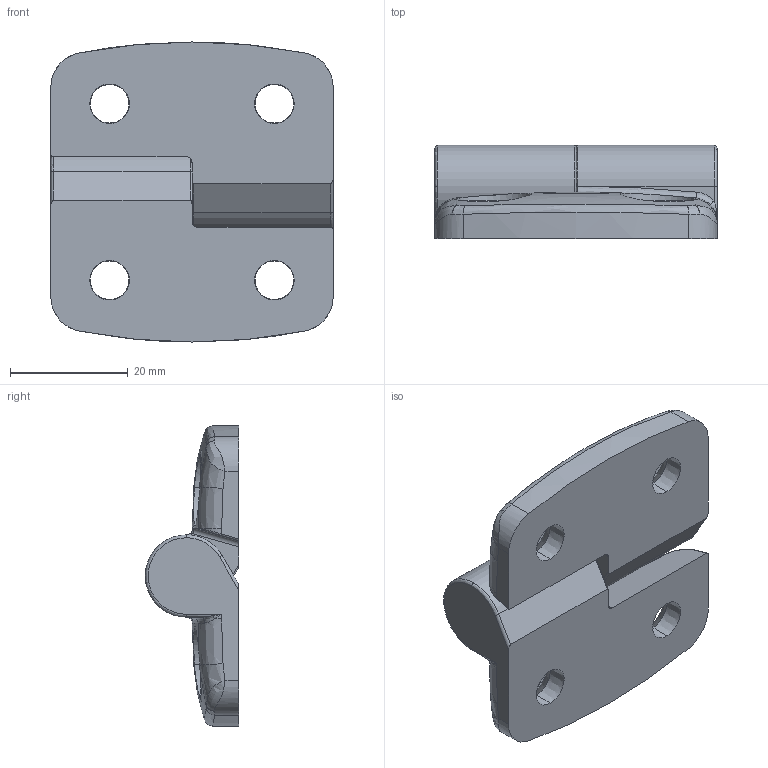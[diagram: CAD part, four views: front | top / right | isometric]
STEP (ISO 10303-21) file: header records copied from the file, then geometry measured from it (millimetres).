
FILE_DESCRIPTION (( 'STEP AP203' ), '1' );
FILE_NAME ('1.33.67.0002-cerniera-sganciabile-serie25-inox-Milper.STEP', '2019-04-30T07:49:25', ( '' ), ( '' ), 'SwSTEP 2.0', 'SolidWorks 2019', '' );
FILE_SCHEMA (( 'CONFIG_CONTROL_DESIGN' ));
Length unit declared in the file: millimetre
Products named in the file (1): 1.33.67.0002-cerniera-sganciabile-serie25-inox-Milper
Bounding box: 48 x 15.9 x 51 mm (x, y, z)
Volume: 18008.8 mm3; surface area: 9068.1 mm2
Topology: 3 solids, 3 shells, 135 faces, 341 edges, 206 vertices
Faces by surface type: bspline 50, cylinder 45, cone 20, plane 20
Entity records: 6606 total; most frequent: CARTESIAN_POINT 3719, ORIENTED_EDGE 670, DIRECTION 477, EDGE_CURVE 335, VERTEX_POINT 206, AXIS2_PLACEMENT_3D 194, EDGE_LOOP 143, FACE_OUTER_BOUND 135
